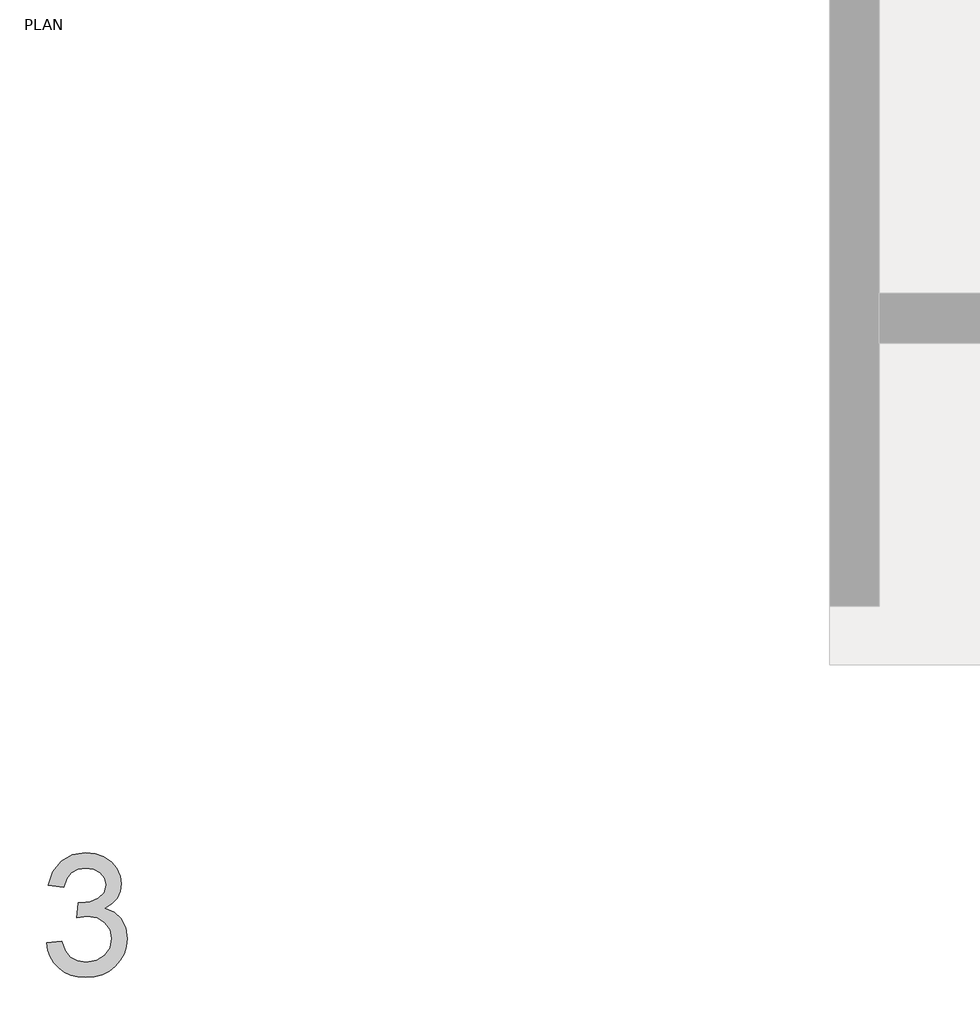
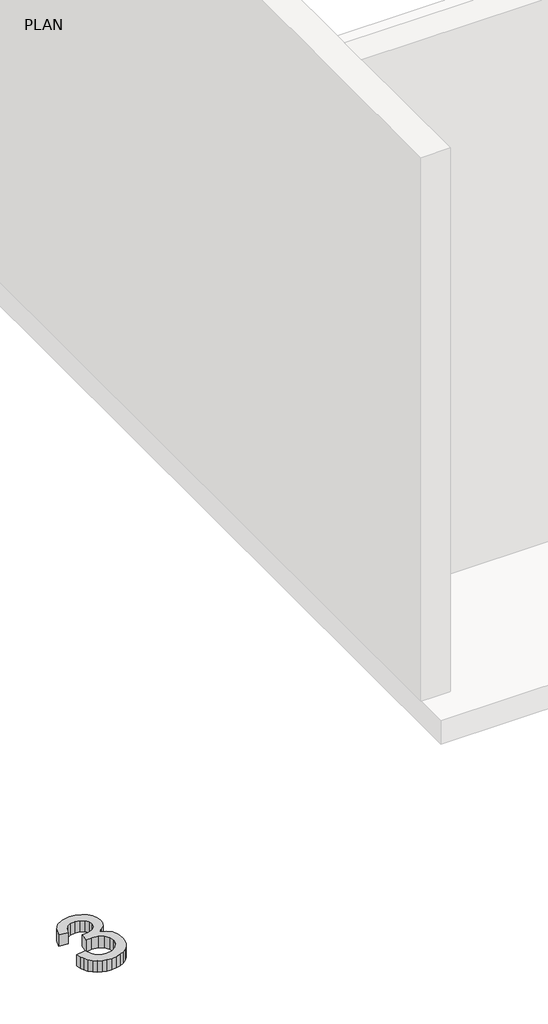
# One storey, part 9 of 21: 1 proxy.
"""IFC4 building model written with IfcOpenShell, lengths in millimetres."""

import ifcopenshell
import ifcopenshell.guid

model = None  # the IFC model being written
_history = None  # IfcOwnerHistory: only IFC2X3 demands one
_inside = {}  # id of a spatial element -> (the spatial element, [elements in it])
_under = {}  # id of a project, library or spatial element -> (it, [spatial elements below it])
_declared = {}  # id of a project -> (the project, [libraries it declares])
_typed = {}  # id of a type object -> (the type object, [elements of that type])
_made_of = {}  # id of a material, layer set ... -> (it, [elements and type objects made of it])


def new_model(schema):
    """Start an empty IFC model of exactly this schema.

    Asked for "IFC4X3", IfcOpenShell would pick the latest addendum, in which some entities
    have other attributes; the version numbers below select the first issue.
    IFC2X3 requires an IfcOwnerHistory on every rooted entity: one is made here for all.
    """
    global model, _history
    if schema == "IFC4X3":
        model = ifcopenshell.file(schema_version=(4, 3, 0, 0))
    else:
        model = ifcopenshell.file(schema=schema)
    _inside.clear()
    _under.clear()
    _declared.clear()
    _typed.clear()
    _made_of.clear()
    _history = None
    if model.schema == "IFC2X3":
        org = make("IfcOrganization", Name="unknown")
        user = make(
            "IfcPersonAndOrganization",
            ThePerson=make("IfcPerson", FamilyName="unknown"),
            TheOrganization=org,
        )
        app = make(
            "IfcApplication",
            ApplicationDeveloper=org,
            Version="unknown",
            ApplicationFullName="unknown",
            ApplicationIdentifier="unknown",
        )
        _history = make(
            "IfcOwnerHistory",
            OwningUser=user,
            OwningApplication=app,
            ChangeAction="ADDED",
            CreationDate=0,
        )
    return model


def make(cls, **values):
    """One entity of the class cls with the attributes given. An attribute that is None is left unset."""
    return model.create_entity(
        cls, **{name: value for name, value in values.items() if value is not None}
    )


def rooted(cls, **values):
    """An entity with a GlobalId (a new one), such as an element, a storey or a relation."""
    return make(cls, GlobalId=ifcopenshell.guid.new(), OwnerHistory=_history, **values)


def si_unit(unit_type, name, prefix=None):
    """IfcSIUnit, for example si_unit("LENGTHUNIT", "METRE", prefix="MILLI")."""
    return make("IfcSIUnit", UnitType=unit_type, Prefix=prefix, Name=name)


def assignment(units):
    """IfcUnitAssignment: the units of a project."""
    return None if units is None else make("IfcUnitAssignment", Units=units)


def point(xyz):
    """IfcCartesianPoint."""
    return None if xyz is None else make("IfcCartesianPoint", Coordinates=xyz)


def direction(xyz):
    """IfcDirection."""
    return None if xyz is None else make("IfcDirection", DirectionRatios=xyz)


def frame(location, z_axis=None, x_axis=None):
    """IfcAxis2Placement3D, a coordinate frame: its origin and axes. An axis left out is left unset."""
    return make(
        "IfcAxis2Placement3D",
        Location=point(location),
        Axis=direction(z_axis),
        RefDirection=direction(x_axis),
    )


def origin():
    """The frame at (0, 0, 0) with its axes left unset."""
    return frame((0.0, 0.0, 0.0))


def origin_with_axes():
    """The frame at (0, 0, 0) with the z axis (0, 0, 1) and the x axis (1, 0, 0) written out."""
    return frame((0.0, 0.0, 0.0), z_axis=(0.0, 0.0, 1.0), x_axis=(1.0, 0.0, 0.0))


def place(relative_to, where):
    """IfcLocalPlacement: puts the frame where relative to a parent placement (None: the world)."""
    return make(
        "IfcLocalPlacement", PlacementRelTo=relative_to, RelativePlacement=where
    )


def context(
    kind, dimensions, precision=None, world=None, true_north=None, identifier=None
):
    """IfcGeometricRepresentationContext, for example the 3D "Model" context."""
    return make(
        "IfcGeometricRepresentationContext",
        ContextIdentifier=identifier,
        ContextType=kind,
        CoordinateSpaceDimension=dimensions,
        Precision=precision,
        WorldCoordinateSystem=world,
        TrueNorth=true_north,
    )


def project(units=None, contexts=None):
    """IfcProject with its units and contexts."""
    return rooted(
        "IfcProject",
        Name="project",
        RepresentationContexts=contexts,
        UnitsInContext=assignment(units),
    )


def spatial(cls, under=None, at=None, **own):
    """A site, building, storey or space (cls), placed at a placement, below another one or the project."""
    s = rooted(cls, ObjectPlacement=at, **own)
    if under is not None:
        _under.setdefault(under.id(), (under, []))[1].append(s)
    return s


def polyline(points):
    """IfcPolyline through the points."""
    return make("IfcPolyline", Points=[point(p) for p in points])


def outline(outer, holes=None, kind="AREA"):
    """IfcArbitraryClosedProfileDef: a profile drawn as a closed curve; with holes, ...WithVoids."""
    if holes is None:
        return make("IfcArbitraryClosedProfileDef", ProfileType=kind, OuterCurve=outer)
    return make(
        "IfcArbitraryProfileDefWithVoids",
        ProfileType=kind,
        OuterCurve=outer,
        InnerCurves=holes,
    )


def extrude(swept, where, along, depth):
    """IfcExtrudedAreaSolid: the profile swept, set in the frame where, extruded along a direction by depth."""
    return make(
        "IfcExtrudedAreaSolid",
        SweptArea=swept,
        Position=where,
        ExtrudedDirection=direction(along),
        Depth=depth,
    )


def shape(context_of_items, identifier, shape_type, items):
    """IfcShapeRepresentation: the items that make up one representation, for example the "Body"."""
    return make(
        "IfcShapeRepresentation",
        ContextOfItems=context_of_items,
        RepresentationIdentifier=identifier,
        RepresentationType=shape_type,
        Items=items,
    )


def made_of(thing, what):
    """Note that an element or type object is made of a material, layer set ...; save() writes the relation."""
    if what is not None:
        _made_of.setdefault(what.id(), (what, []))[1].append(thing)
    return thing


def element(
    cls,
    number,
    at=None,
    inside=None,
    cuts=None,
    type_object=None,
    material=None,
    context=None,
    identifier="Body",
    shape_type=None,
    held_by="IfcProductDefinitionShape",
    body=None,
    shapes=None,
    **own,
):
    """One element of the class cls, such as IfcWall. Its Tag is "e" and its number.

    at: its placement. inside: the storey or other place that contains it. cuts: it is an
    opening in that element (IfcRelVoidsElement). A single representation is given by context,
    identifier, shape_type and body (its items); several are given by shapes. held_by: the class
    of the entity that holds the representations. save() writes the other relations.
    """
    e = rooted(cls, Tag="e%d" % number, ObjectPlacement=at, **own)
    if body is not None:
        shapes = [shape(context, identifier, shape_type, body)]
    if shapes is not None:
        e.Representation = make(held_by, Representations=shapes)
    if inside is not None:
        _inside.setdefault(inside.id(), (inside, []))[1].append(e)
    if cuts is not None:
        rooted(
            "IfcRelVoidsElement", RelatingBuildingElement=cuts, RelatedOpeningElement=e
        )
    if type_object is not None:
        _typed.setdefault(type_object.id(), (type_object, []))[1].append(e)
    return made_of(e, material)


def aggregate(whole, parts):
    """IfcRelAggregates: a whole, such as a stair, and the parts it consists of."""
    return rooted("IfcRelAggregates", RelatingObject=whole, RelatedObjects=parts)


def save(model, path):
    """Write the relations noted so far, then the file.

    IfcRelAggregates (storeys below a building ...), IfcRelContainedInSpatialStructure (elements
    in a storey), IfcRelDefinesByType, IfcRelAssociatesMaterial and IfcRelDeclares: one each for
    every whole, place, type object, material and project.
    """
    for whole, parts in _under.values():
        aggregate(whole, parts)
    for where, things in _inside.values():
        rooted(
            "IfcRelContainedInSpatialStructure",
            RelatedElements=things,
            RelatingStructure=where,
        )
    for kind, things in _typed.values():
        rooted("IfcRelDefinesByType", RelatedObjects=things, RelatingType=kind)
    for what, things in _made_of.values():
        rooted("IfcRelAssociatesMaterial", RelatedObjects=things, RelatingMaterial=what)
    for by, libraries in _declared.values():
        rooted("IfcRelDeclares", RelatingContext=by, RelatedDefinitions=libraries)
    model.write(path)


model = new_model("IFC4")

# Units and contexts
model_context = context("Model", 3, world=origin())
ifc_project = project(units=[si_unit("LENGTHUNIT", "METRE", prefix="MILLI")], contexts=[model_context])

# Site, building, storey
site = spatial("IfcSite", under=ifc_project)
building = spatial("IfcBuilding", under=site)
storey = spatial("IfcBuildingStorey", under=building, Name="PLAN", Elevation=0.0)

# Proxy
placement = place(None, origin())
element("IfcBuildingElementProxy", 1, Name="12\" Arial", ObjectType="12\" Arial", at=placement, inside=storey, context=model_context, shape_type="SweptSolid", body=[
    extrude(outline(polyline([(-25033.2222535, 3592.3843001), (-24995.1513667, 3597.143161), (-24986.6281726, 3573.2187316), (-24974.1454575, 3557.0646298), (-24957.0897746, 3547.8629262), (-24934.8476769, 3544.7956917), (-24908.7482995, 3549.0154628), (-24888.5974981, 3561.6747762), (-24875.7151131, 3580.5615052), (-24871.4209847, 3603.463523), (-24875.6779345, 3625.2037096), (-24888.4487837, 3642.8356608), (-24907.7816559, 3654.519036), (-24931.7246745, 3658.4134943), (-24958.4189096, 3654.2494911), (-24954.1805491, 3692.3203779), (-24948.0832587, 3691.8742347), (-24925.2741874, 3694.6068618), (-24904.8817251, 3702.8047432), (-24890.4936067, 3716.6723611), (-24885.6975673, 3736.4141979), (-24889.1737664, 3752.8564339), (-24899.6023638, 3766.1942568), (-24915.5148048, 3775.033469), (-24935.4425345, 3777.9798731), (-24955.4074429, 3775.005585), (-24971.7288485, 3766.082721), (-24983.6445899, 3751.2112808), (-24990.3925059, 3730.3912646), (-25028.4633926, 3735.1501255), (-25017.2540446, 3769.3358485), (-24997.3077255, 3794.8589576), (-24970.0186329, 3810.7528093), (-24936.7809642, 3816.0507598), (-24912.8472402, 3813.4389632), (-24890.8653927, 3805.6035731), (-24872.3318605, 3793.2416885), (-24858.743082, 3777.0504081), (-24850.4057809, 3758.3960453), (-24847.6266805, 3738.6449139), (-24850.2663611, 3720.2415067), (-24858.185403, 3703.5483152), (-24871.2722703, 3689.3275005), (-24889.4154273, 3678.3412241), (-24865.5839445, 3668.7119666), (-24847.9241093, 3652.3162039), (-24836.9936008, 3630.0462223), (-24833.350098, 3602.7943082), (-24835.1718494, 3583.4800253), (-24840.6371037, 3565.6900651), (-24849.7458607, 3549.4244274), (-24862.4981207, 3534.6831124), (-24878.0341283, 3522.4513529), (-24895.4941285, 3513.7143818), (-24914.8781212, 3508.4721991), (-24936.1861066, 3506.7248049), (-24955.4446215, 3508.2165963), (-24972.9929209, 3512.6919703), (-24988.8310046, 3520.150927), (-25002.9588728, 3530.5934663), (-25014.8049043, 3543.4061415), (-25023.7974783, 3557.9755055), (-25029.9365947, 3574.3015584), (-25033.2222535, 3592.3843001)])), origin_with_axes(), (0.0, 0.0, 1.0), 50.8),
])

save(model, "model.ifc")
